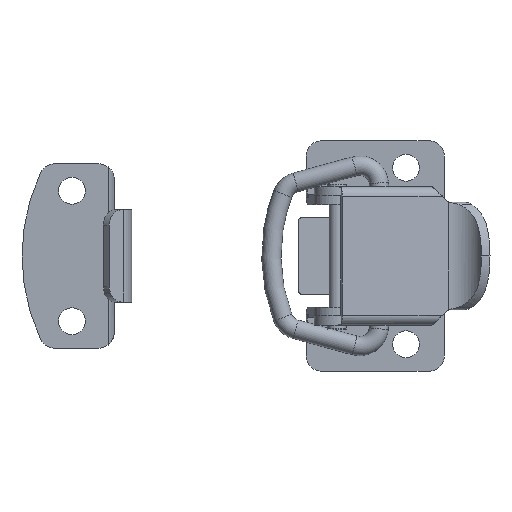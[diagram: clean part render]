
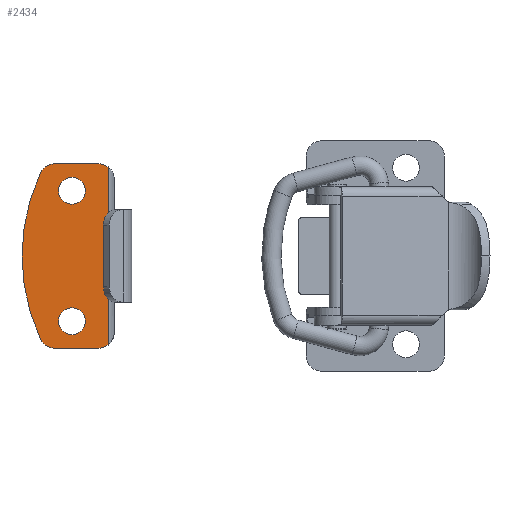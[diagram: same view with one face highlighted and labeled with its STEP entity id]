
A CAD part, top view. The second image highlights one B-rep face of the part: STEP entity #2434.
In plain terms, the highlighted planar face has unit normal (0, 0, 1) as drawn and (0, 1, 0) by its records, which use the part's own axes.
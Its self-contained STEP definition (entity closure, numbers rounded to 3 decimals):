
#163=PLANE('',#2595);
#223=LINE('',#3562,#384);
#226=LINE('',#3572,#387);
#227=LINE('',#3576,#388);
#384=VECTOR('',#2873,5.766);
#387=VECTOR('',#2882,5.766);
#388=VECTOR('',#2885,23.197);
#545=FACE_BOUND('',#747,.T.);
#546=FACE_BOUND('',#748,.T.);
#594=FACE_OUTER_BOUND('',#746,.T.);
#746=EDGE_LOOP('',(#1660,#1661,#1662,#1663,#1664,#1665,#1666,#1667));
#747=EDGE_LOOP('',(#1668));
#748=EDGE_LOOP('',(#1669));
#938=CIRCLE('',#2587,1.75);
#940=CIRCLE('',#2590,1.75);
#942=CIRCLE('',#2593,2.);
#943=CIRCLE('',#2596,25.5);
#944=CIRCLE('',#2597,2.);
#945=CIRCLE('',#2598,2.);
#946=CIRCLE('',#2599,2.);
#1044=VERTEX_POINT('',#3544);
#1046=VERTEX_POINT('',#3549);
#1049=VERTEX_POINT('',#3555);
#1050=VERTEX_POINT('',#3557);
#1051=VERTEX_POINT('',#3561);
#1053=VERTEX_POINT('',#3567);
#1054=VERTEX_POINT('',#3569);
#1055=VERTEX_POINT('',#3571);
#1056=VERTEX_POINT('',#3573);
#1057=VERTEX_POINT('',#3575);
#1290=EDGE_CURVE('',#1044,#1044,#938,.T.);
#1292=EDGE_CURVE('',#1046,#1046,#940,.T.);
#1295=EDGE_CURVE('',#1049,#1050,#942,.T.);
#1297=EDGE_CURVE('',#1050,#1051,#223,.T.);
#1300=EDGE_CURVE('',#1053,#1049,#943,.T.);
#1301=EDGE_CURVE('',#1054,#1053,#944,.T.);
#1302=EDGE_CURVE('',#1055,#1054,#226,.T.);
#1303=EDGE_CURVE('',#1056,#1055,#945,.T.);
#1304=EDGE_CURVE('',#1056,#1057,#227,.T.);
#1305=EDGE_CURVE('',#1051,#1057,#946,.T.);
#1660=ORIENTED_EDGE('',*,*,#1295,.F.);
#1661=ORIENTED_EDGE('',*,*,#1300,.F.);
#1662=ORIENTED_EDGE('',*,*,#1301,.F.);
#1663=ORIENTED_EDGE('',*,*,#1302,.F.);
#1664=ORIENTED_EDGE('',*,*,#1303,.F.);
#1665=ORIENTED_EDGE('',*,*,#1304,.T.);
#1666=ORIENTED_EDGE('',*,*,#1305,.F.);
#1667=ORIENTED_EDGE('',*,*,#1297,.F.);
#1668=ORIENTED_EDGE('',*,*,#1290,.T.);
#1669=ORIENTED_EDGE('',*,*,#1292,.T.);
#2434=ADVANCED_FACE('',(#594,#545,#546),#163,.T.);
#2587=AXIS2_PLACEMENT_3D('',#3545,#2855,#2856);
#2590=AXIS2_PLACEMENT_3D('',#3550,#2861,#2862);
#2593=AXIS2_PLACEMENT_3D('',#3558,#2868,#2869);
#2595=AXIS2_PLACEMENT_3D('',#3566,#2876,#2877);
#2596=AXIS2_PLACEMENT_3D('',#3568,#2878,#2879);
#2597=AXIS2_PLACEMENT_3D('',#3570,#2880,#2881);
#2598=AXIS2_PLACEMENT_3D('',#3574,#2883,#2884);
#2599=AXIS2_PLACEMENT_3D('',#3577,#2886,#2887);
#2855=DIRECTION('center_axis',(0.,-1.,0.));
#2856=DIRECTION('ref_axis',(-1.,0.,0.));
#2861=DIRECTION('center_axis',(0.,-1.,0.));
#2862=DIRECTION('ref_axis',(-1.,0.,0.));
#2868=DIRECTION('center_axis',(0.,-1.,0.));
#2869=DIRECTION('ref_axis',(-0.536,0.,-0.844));
#2873=DIRECTION('',(1.,0.,0.));
#2876=DIRECTION('center_axis',(0.,1.,0.));
#2877=DIRECTION('ref_axis',(-1.,0.,0.));
#2878=DIRECTION('center_axis',(0.,-1.,0.));
#2879=DIRECTION('ref_axis',(-0.882,0.,0.471));
#2880=DIRECTION('center_axis',(0.,-1.,0.));
#2881=DIRECTION('ref_axis',(-0.536,0.,0.844));
#2882=DIRECTION('',(-1.,0.,0.));
#2883=DIRECTION('center_axis',(0.,-1.,0.));
#2884=DIRECTION('ref_axis',(0.707,0.,0.707));
#2885=DIRECTION('',(0.,0.,-1.));
#2886=DIRECTION('center_axis',(0.,-1.,0.));
#2887=DIRECTION('ref_axis',(0.707,0.,-0.707));
#3544=CARTESIAN_POINT('',(8.25,1.2,-8.5));
#3545=CARTESIAN_POINT('Origin',(6.5,1.2,-8.5));
#3549=CARTESIAN_POINT('',(8.25,1.2,8.5));
#3550=CARTESIAN_POINT('Origin',(6.5,1.2,8.5));
#3555=CARTESIAN_POINT('',(2.424,1.2,-10.851));
#3557=CARTESIAN_POINT('',(4.234,1.2,-12.));
#3558=CARTESIAN_POINT('Origin',(4.234,1.2,-10.));
#3561=CARTESIAN_POINT('',(10.,1.2,-12.));
#3562=CARTESIAN_POINT('',(13.651,1.2,-12.));
#3566=CARTESIAN_POINT('Origin',(13.651,1.2,0.));
#3567=CARTESIAN_POINT('',(2.424,1.2,10.851));
#3568=CARTESIAN_POINT('Origin',(25.5,1.2,0.));
#3569=CARTESIAN_POINT('',(4.234,1.2,12.));
#3570=CARTESIAN_POINT('Origin',(4.234,1.2,10.));
#3571=CARTESIAN_POINT('',(10.,1.2,12.));
#3572=CARTESIAN_POINT('',(13.651,1.2,12.));
#3573=CARTESIAN_POINT('',(11.202,1.2,11.598));
#3574=CARTESIAN_POINT('Origin',(10.,1.2,10.));
#3575=CARTESIAN_POINT('',(11.202,1.2,-11.598));
#3576=CARTESIAN_POINT('',(11.202,1.2,0.));
#3577=CARTESIAN_POINT('Origin',(10.,1.2,-10.));
